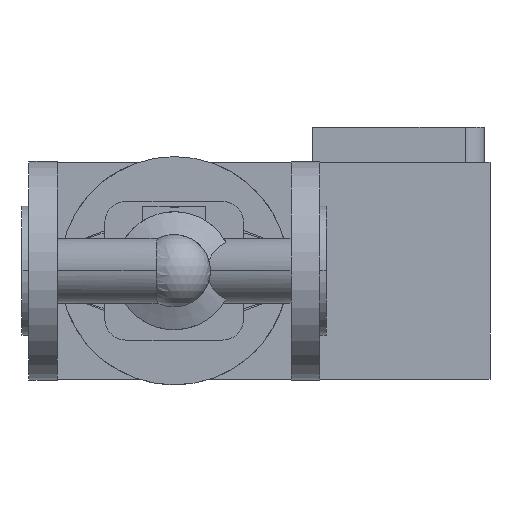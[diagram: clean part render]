
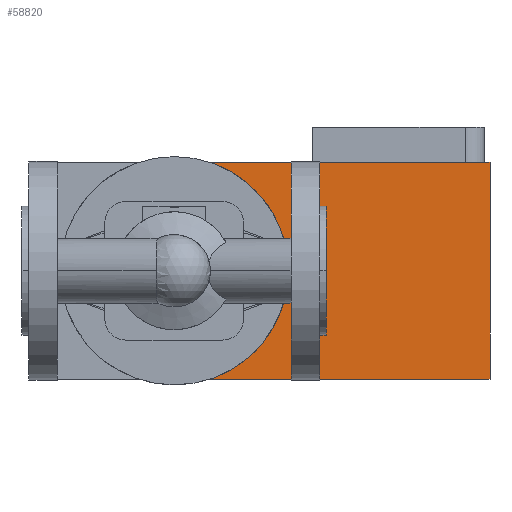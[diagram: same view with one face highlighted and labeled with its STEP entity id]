
A CAD part, front view. The second image highlights one B-rep face of the part: STEP entity #58820.
In plain terms, the highlighted planar face has unit normal (0, -1, 0).
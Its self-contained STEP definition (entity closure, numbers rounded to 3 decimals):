
#55360=CARTESIAN_POINT('',(-28.5,228.,32.));
#55370=DIRECTION('',(0.,1.,-0.));
#55380=DIRECTION('',(-1.,0.,0.));
#55390=AXIS2_PLACEMENT_3D('',#55360,#55370,#55380);
#55400=PLANE('',#55390);
#55410=CARTESIAN_POINT('',(-64.,228.,-25.));
#55420=DIRECTION('',(1.,0.,0.));
#55430=VECTOR('',#55420,1.);
#55440=LINE('',#55410,#55430);
#55590=CARTESIAN_POINT('',(-64.,228.,89.));
#55600=DIRECTION('',(1.,0.,0.));
#55610=VECTOR('',#55600,1.);
#55620=LINE('',#55590,#55610);
#55670=CARTESIAN_POINT('',(0.,228.,32.));
#55680=DIRECTION('',(0.,-1.,0.));
#55690=DIRECTION('',(-1.,0.,0.));
#55700=AXIS2_PLACEMENT_3D('',#55670,#55680,#55690);
#55710=CIRCLE('',#55700,60.);
#55900=CARTESIAN_POINT('',(18.735,228.,-25.));
#55910=VERTEX_POINT('',#55900);
#55960=CARTESIAN_POINT('',(166.,228.,-25.));
#55970=VERTEX_POINT('',#55960);
#55980=EDGE_CURVE('',#55910,#55970,#55440,.T.);
#57280=CARTESIAN_POINT('',(166.,228.,89.));
#57290=VERTEX_POINT('',#57280);
#57320=CARTESIAN_POINT('',(18.735,228.,89.));
#57330=VERTEX_POINT('',#57320);
#57340=EDGE_CURVE('',#57330,#57290,#55620,.T.);
#58590=CARTESIAN_POINT('',(60.,228.,32.));
#58600=VERTEX_POINT('',#58590);
#58610=EDGE_CURVE('',#58600,#57330,#55710,.T.);
#58690=ORIENTED_EDGE('',*,*,#57340,.F.);
#58700=CARTESIAN_POINT('',(166.,228.,32.));
#58710=DIRECTION('',(0.,0.,-1.));
#58720=VECTOR('',#58710,1.);
#58730=LINE('',#58700,#58720);
#58740=EDGE_CURVE('',#57290,#55970,#58730,.T.);
#58750=ORIENTED_EDGE('',*,*,#58740,.F.);
#58760=ORIENTED_EDGE('',*,*,#55980,.T.);
#58770=EDGE_CURVE('',#55910,#58600,#55710,.T.);
#58780=ORIENTED_EDGE('',*,*,#58770,.F.);
#58790=ORIENTED_EDGE('',*,*,#58610,.F.);
#58800=EDGE_LOOP('',(#58790,#58780,#58760,#58750,#58690));
#58810=FACE_OUTER_BOUND('',#58800,.T.);
#58820=ADVANCED_FACE('',(#58810),#55400,.F.);
